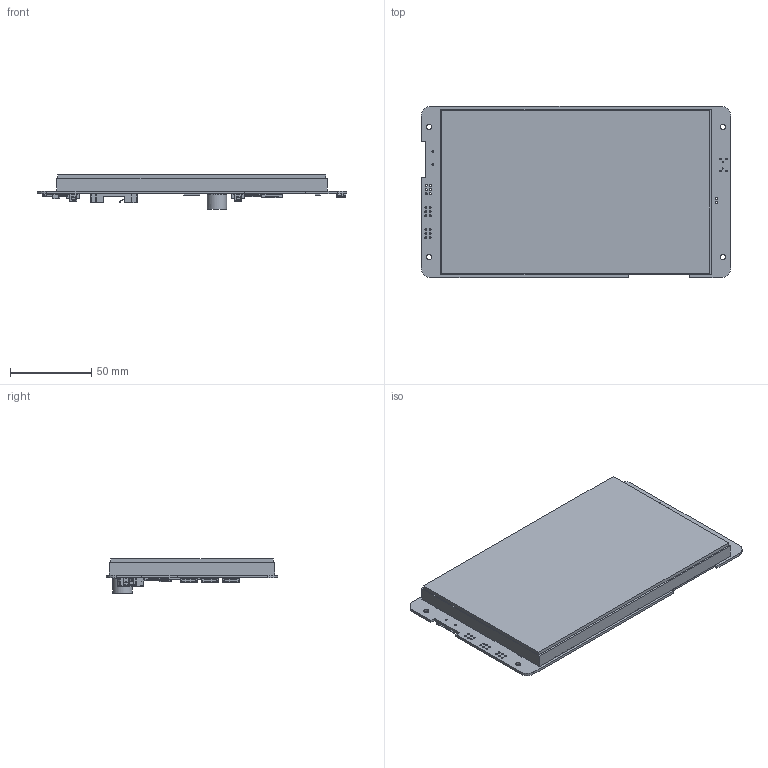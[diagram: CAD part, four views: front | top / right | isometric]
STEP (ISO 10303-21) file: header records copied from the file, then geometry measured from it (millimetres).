
FILE_DESCRIPTION(/* description */ ('Open CASCADE Model'),/* implementation_level */ '2;1');
FILE_NAME(/* name */ 'P10600-070P-L0101.stp',/* time_stamp */ '2026-01-23T16:55:51-03:00',/* author */ ('Reservaa'),/* organization */ ('Open CASCADE'),/* preprocessor_version */ 'ST-DEVELOPER v20',/* originating_system */ 'Autodesk Inventor 2024',/* authorisation */ 'Unknown');
FILE_SCHEMA (('AUTOMOTIVE_DESIGN { 1 0 10303 214 3 1 1 }'));
Products named in the file (43): PCB; Board; Open CASCADE STEP translator 7.5 5.1.1; USB1; USB20_MICRO_SMD_W; Open CASCADE STEP translator 7.5 5.2.1.1; Open CASCADE STEP translator 7.5 5.2.1.2; Open CASCADE STEP translator 7.5 5.2.1.3; Open CASCADE STEP translator 7.5 5.2.1.4; Open CASCADE STEP translator 7.5 5.2.1.5; Open CASCADE STEP translator 7.5 5.2.1.6; Open CASCADE STEP translator 7.5 5.2.1.7; CN2; BUZZER1; Buzzi_1209; CN7; CN6; CN5; SHB10_8P_W; CN1; CONN-SMD_2P-P1.25_HDGC_1.25K-BH-2PWB; Open CASCADE STEP translator 7.5 5.3.1.1; Open CASCADE STEP translator 7.5 5.3.1.2; Open CASCADE STEP translator 7.5 5.3.1.3; FPC2; FPC_10_6P_W; FPC1; 200528-0040; B1; CR2032-???-SMD; Open CASCADE STEP translator 7.5 5.20.1.1; Open CASCADE STEP translator 7.5 5.20.1.2; Open CASCADE STEP translator 7.5 5.20.1.3; Tela J70L_T01; CARD1; TF_ZT; Vidro da Tela J70L_T01; botao_reset; F1C100S; Body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
Assembly tree (45 placements, depth 4):
  PCB
    Board
      Open CASCADE STEP translator 7.5 5.1.1
    USB1
      USB20_MICRO_SMD_W
        Open CASCADE STEP translator 7.5 5.2.1.1
        Open CASCADE STEP translator 7.5 5.2.1.2
        Open CASCADE STEP translator 7.5 5.2.1.3
        Open CASCADE STEP translator 7.5 5.2.1.4
        Open CASCADE STEP translator 7.5 5.2.1.5
        Open CASCADE STEP translator 7.5 5.2.1.6
        Open CASCADE STEP translator 7.5 5.2.1.7
    CN2
      CONN-SMD_2P-P1.25_HDGC_1.25K-BH-2PWB
        Open CASCADE STEP translator 7.5 5.3.1.1
        Open CASCADE STEP translator 7.5 5.3.1.2
        Open CASCADE STEP translator 7.5 5.3.1.3
    BUZZER1
      Buzzi_1209
    CN7
      SHB10_8P_W
    CN6
      SHB10_8P_W
    CN5
      SHB10_8P_W
    CN1
      CONN-SMD_2P-P1.25_HDGC_1.25K-BH-2PWB
        Open CASCADE STEP translator 7.5 5.3.1.1
        Open CASCADE STEP translator 7.5 5.3.1.2
        Open CASCADE STEP translator 7.5 5.3.1.3
    FPC2
      FPC_10_6P_W
    FPC1
      200528-0040
    B1
      CR2032-???-SMD
        Open CASCADE STEP translator 7.5 5.20.1.1
        Open CASCADE STEP translator 7.5 5.20.1.2
        Open CASCADE STEP translator 7.5 5.20.1.3
    Tela J70L_T01
    CARD1
      TF_ZT
    Vidro da Tela J70L_T01
    botao_reset
    F1C100S
      Body
      ThermalPin
      PinsArrayLR
      PinsArrayTB
Bounding box: 190.27 x 105.25 x 21.05 mm (x, y, z)
Volume: 200839.4 mm3; surface area: 119264.1 mm2
Topology: 184 solids, 184 shells, 5668 faces, 14954 edges, 9757 vertices
Faces by surface type: plane 4334, cylinder 659, bspline 605, torus 42, sphere 16, cone 12
Full cylindrical faces by diameter (mm): 0.8 x2, 1.05 x11, 1.2 x27, 1.25 x1, 1.5 x7, 1.8 x1, 2 x4, 2.5 x1, 3.2 x4, 7.517 x1, 12 x1
Entity records: 150237 total; most frequent: CARTESIAN_POINT 41255, ORIENTED_EDGE 22688, DIRECTION 20091, EDGE_CURVE 11344, LINE 9311, VECTOR 9311, VERTEX_POINT 7392, AXIS2_PLACEMENT_3D 5390
